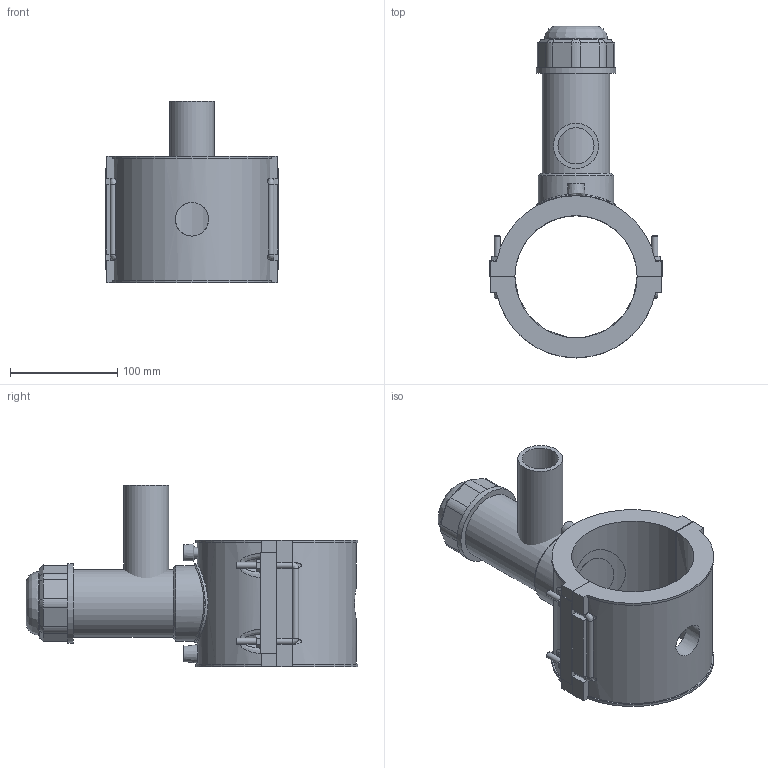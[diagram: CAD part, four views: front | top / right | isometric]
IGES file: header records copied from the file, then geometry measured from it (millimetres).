
Global section: file name: 5963BBP3040013.ipt; native system: Autodesk Inventor 2019; preprocessor: unknown; author: KIM; date: 20210830.101532; units: inch
Bounding box: 161 x 309.74 x 169.04 mm (x, y, z)
Volume: 1256878.2 mm3; surface area: 232131.6 mm2
Topology: 5 solids, 6 shells, 195 faces, 480 edges, 304 vertices
Faces by surface type: plane 112, cylinder 38, revolution 17, cone 15, bspline 13
Full cylindrical faces by diameter (mm): 4 x2, 6 x8, 42.1 x1, 59.332 x1, 63.04 x1, 70.457 x1, 74.165 x2
